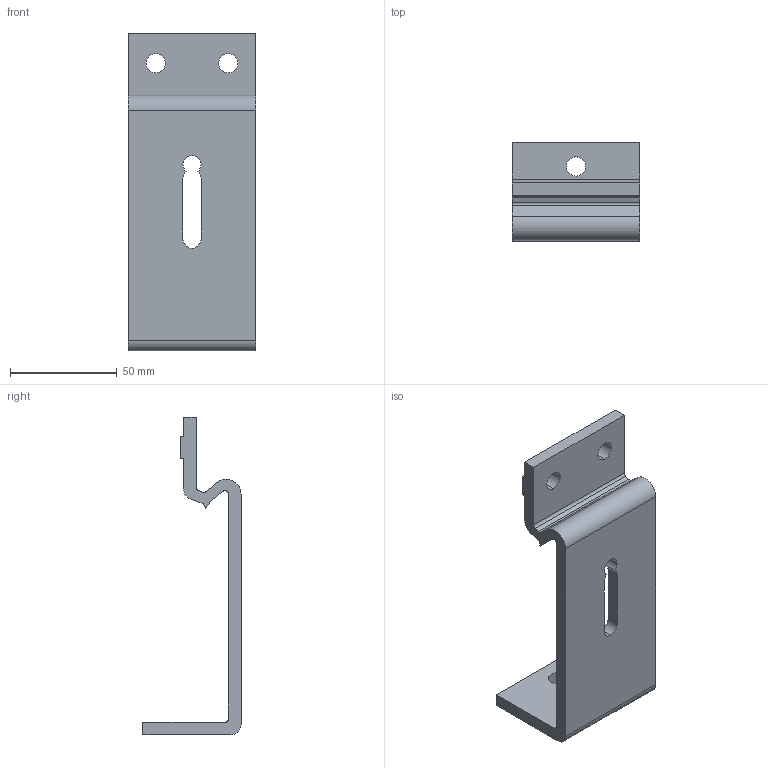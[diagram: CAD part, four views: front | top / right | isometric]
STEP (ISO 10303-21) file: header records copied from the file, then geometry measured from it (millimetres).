
FILE_DESCRIPTION (( 'STEP AP214' ), '1' );
FILE_NAME ('FABER - FAHBS 62A.STEP', '2017-04-05T12:15:56', ( '' ), ( '' ), 'SwSTEP 2.0', 'SolidWorks 2016', '' );
FILE_SCHEMA (( 'AUTOMOTIVE_DESIGN' ));
Length unit declared in the file: millimetre
Products named in the file (1): FABER - FAHBS 62A
Bounding box: 60 x 46 x 149.21 mm (x, y, z)
Volume: 73360 mm3; surface area: 29259.7 mm2
Topology: 1 solids, 1 shells, 40 faces, 114 edges, 76 vertices
Faces by surface type: plane 22, cylinder 18
Entity records: 1364 total; most frequent: DIRECTION 232, CARTESIAN_POINT 231, ORIENTED_EDGE 228, EDGE_CURVE 114, LINE 78, VECTOR 78, AXIS2_PLACEMENT_3D 77, VERTEX_POINT 76
